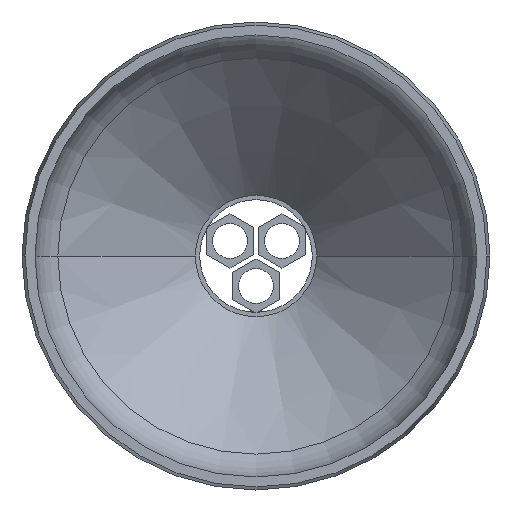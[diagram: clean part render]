
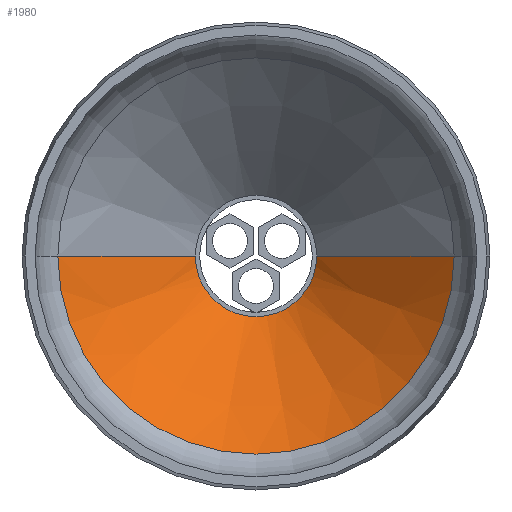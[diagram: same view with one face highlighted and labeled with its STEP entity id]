
A CAD part, front view. The second image highlights one B-rep face of the part: STEP entity #1980.
In plain terms, the highlighted conical face has half-angle 45 degrees and reference radius 7 mm.
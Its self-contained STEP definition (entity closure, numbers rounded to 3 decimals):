
#1570=CARTESIAN_POINT('',(-96.193,24.609,0.));
#1580=DIRECTION('',(0.,-1.,0.));
#1590=DIRECTION('',(-1.,0.,0.));
#1600=AXIS2_PLACEMENT_3D('',#1570,#1580,#1590);
#1610=CONICAL_SURFACE('',#1600,7.,0.785);
#1620=CARTESIAN_POINT('',(-89.193,24.609,
0.));
#1630=DIRECTION('',(0.707,-0.707,
0.));
#1640=VECTOR('',#1630,1.);
#1650=LINE('',#1620,#1640);
#1660=CARTESIAN_POINT('',(-89.193,24.609,
0.));
#1670=VERTEX_POINT('',#1660);
#1680=CARTESIAN_POINT('',(-73.329,8.745,0.));
#1690=VERTEX_POINT('',#1680);
#1700=EDGE_CURVE('',#1670,#1690,#1650,.T.);
#1710=ORIENTED_EDGE('',*,*,#1700,.F.);
#1720=CARTESIAN_POINT('',(-96.193,8.745,0.));
#1730=DIRECTION('',(0.,-1.,0.));
#1740=DIRECTION('',(-1.,0.,0.));
#1750=AXIS2_PLACEMENT_3D('',#1720,#1730,#1740);
#1760=CIRCLE('',#1750,22.864);
#1770=CARTESIAN_POINT('',(-119.057,8.745,0.));
#1780=VERTEX_POINT('',#1770);
#1790=EDGE_CURVE('',#1780,#1690,#1760,.T.);
#1800=ORIENTED_EDGE('',*,*,#1790,.T.);
#1810=CARTESIAN_POINT('',(-103.193,24.609,0.));
#1820=DIRECTION('',(-0.707,-0.707,0.));
#1830=VECTOR('',#1820,1.);
#1840=LINE('',#1810,#1830);
#1850=CARTESIAN_POINT('',(-103.193,24.609,0.));
#1860=VERTEX_POINT('',#1850);
#1870=EDGE_CURVE('',#1860,#1780,#1840,.T.);
#1880=ORIENTED_EDGE('',*,*,#1870,.T.);
#1890=CARTESIAN_POINT('',(-96.193,24.609,0.));
#1900=DIRECTION('',(0.,-1.,0.));
#1910=DIRECTION('',(1.,0.,0.));
#1920=AXIS2_PLACEMENT_3D('',#1890,#1900,#1910);
#1930=CIRCLE('',#1920,7.);
#1940=EDGE_CURVE('',#1860,#1670,#1930,.T.);
#1950=ORIENTED_EDGE('',*,*,#1940,.F.);
#1960=EDGE_LOOP('',(#1950,#1880,#1800,#1710));
#1970=FACE_OUTER_BOUND('',#1960,.T.);
#1980=ADVANCED_FACE('',(#1970),#1610,.F.);
